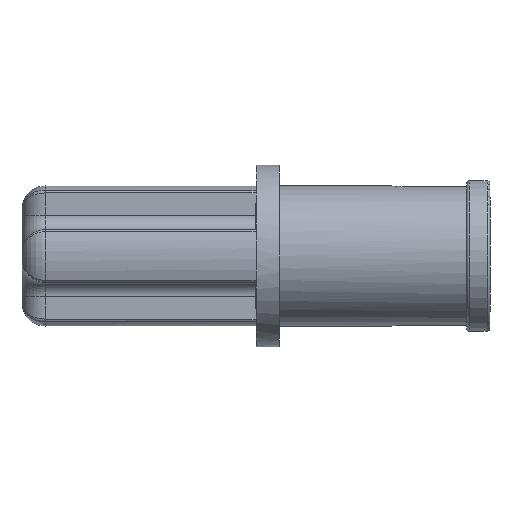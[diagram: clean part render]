
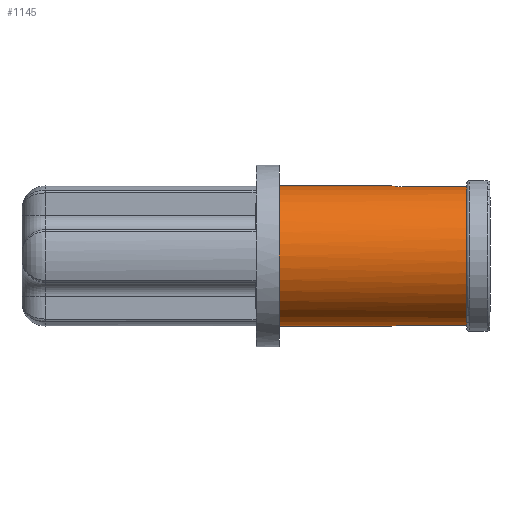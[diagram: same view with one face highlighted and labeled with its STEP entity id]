
A CAD part, front view. The second image highlights one B-rep face of the part: STEP entity #1145.
In plain terms, the highlighted cylindrical face has radius 2.4 mm (diameter 4.8 mm), a full revolution.
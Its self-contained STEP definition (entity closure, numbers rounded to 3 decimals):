
#87=B_SPLINE_CURVE_WITH_KNOTS('',3,(#1857,#1858,#1859,#1860,#1861),
 .UNSPECIFIED.,.F.,.F.,(4,1,4),(0.,0.001,0.001),
 .UNSPECIFIED.);
#88=B_SPLINE_CURVE_WITH_KNOTS('',3,(#1866,#1867,#1868,#1869,#1870),
 .UNSPECIFIED.,.F.,.F.,(4,1,4),(0.,0.001,0.001),
 .UNSPECIFIED.);
#125=CIRCLE('',#1244,2.4);
#127=CIRCLE('',#1247,2.4);
#128=CIRCLE('',#1249,2.4);
#218=ORIENTED_EDGE('',*,*,#570,.F.);
#219=ORIENTED_EDGE('',*,*,#571,.F.);
#220=ORIENTED_EDGE('',*,*,#572,.F.);
#221=ORIENTED_EDGE('',*,*,#573,.F.);
#222=ORIENTED_EDGE('',*,*,#569,.T.);
#223=ORIENTED_EDGE('',*,*,#574,.F.);
#224=ORIENTED_EDGE('',*,*,#575,.F.);
#225=ORIENTED_EDGE('',*,*,#576,.F.);
#226=ORIENTED_EDGE('',*,*,#565,.T.);
#565=EDGE_CURVE('',#739,#741,#125,.T.);
#569=EDGE_CURVE('',#743,#745,#127,.T.);
#570=EDGE_CURVE('',#746,#746,#128,.T.);
#571=EDGE_CURVE('',#747,#741,#816,.F.);
#572=EDGE_CURVE('',#748,#747,#87,.T.);
#573=EDGE_CURVE('',#743,#748,#817,.T.);
#574=EDGE_CURVE('',#749,#745,#818,.F.);
#575=EDGE_CURVE('',#750,#749,#88,.T.);
#576=EDGE_CURVE('',#739,#750,#819,.T.);
#739=VERTEX_POINT('',#1837);
#741=VERTEX_POINT('',#1841);
#743=VERTEX_POINT('',#1846);
#745=VERTEX_POINT('',#1850);
#746=VERTEX_POINT('',#1854);
#747=VERTEX_POINT('',#1856);
#748=VERTEX_POINT('',#1862);
#749=VERTEX_POINT('',#1865);
#750=VERTEX_POINT('',#1871);
#816=LINE('',#1855,#888);
#817=LINE('',#1863,#889);
#818=LINE('',#1864,#890);
#819=LINE('',#1872,#891);
#888=VECTOR('',#1409,1000.);
#889=VECTOR('',#1410,1000.);
#890=VECTOR('',#1411,1000.);
#891=VECTOR('',#1412,1000.);
#956=EDGE_LOOP('',(#218));
#957=EDGE_LOOP('',(#219,#220,#221,#222,#223,#224,#225,#226));
#1036=FACE_BOUND('',#956,.T.);
#1037=FACE_BOUND('',#957,.T.);
#1111=CYLINDRICAL_SURFACE('',#1248,2.4);
#1145=ADVANCED_FACE('',(#1036,#1037),#1111,.T.);
#1244=AXIS2_PLACEMENT_3D('',#1842,#1395,#1396);
#1247=AXIS2_PLACEMENT_3D('',#1851,#1403,#1404);
#1248=AXIS2_PLACEMENT_3D('',#1852,#1405,#1406);
#1249=AXIS2_PLACEMENT_3D('',#1853,#1407,#1408);
#1395=DIRECTION('',(-1.,0.,0.));
#1396=DIRECTION('',(0.,0.,1.));
#1403=DIRECTION('',(-1.,0.,0.));
#1404=DIRECTION('',(0.,0.,1.));
#1405=DIRECTION('',(-1.,0.,0.));
#1406=DIRECTION('',(0.,0.,1.));
#1407=DIRECTION('',(-1.,0.,0.));
#1408=DIRECTION('',(0.,0.,1.));
#1409=DIRECTION('',(-1.,0.,0.));
#1410=DIRECTION('',(-1.,0.,0.));
#1411=DIRECTION('',(-1.,0.,0.));
#1412=DIRECTION('',(-1.,0.,0.));
#1837=CARTESIAN_POINT('',(7.2,0.4,2.366));
#1841=CARTESIAN_POINT('',(7.2,0.4,-2.366));
#1842=CARTESIAN_POINT('',(7.2,0.,0.));
#1846=CARTESIAN_POINT('',(7.2,-0.4,-2.366));
#1850=CARTESIAN_POINT('',(7.2,-0.4,2.366));
#1851=CARTESIAN_POINT('',(7.2,0.,0.));
#1852=CARTESIAN_POINT('',(-60.,0.,0.));
#1853=CARTESIAN_POINT('',(0.8,0.,0.));
#1854=CARTESIAN_POINT('',(0.8,0.,2.4));
#1855=CARTESIAN_POINT('',(-60.,0.4,-2.366));
#1856=CARTESIAN_POINT('',(5.,0.4,-2.366));
#1857=CARTESIAN_POINT('',(5.,-0.4,-2.366));
#1858=CARTESIAN_POINT('',(4.788,-0.4,-2.366));
#1859=CARTESIAN_POINT('',(4.412,-0.001,-2.434));
#1860=CARTESIAN_POINT('',(4.788,0.4,-2.366));
#1861=CARTESIAN_POINT('',(5.,0.4,-2.366));
#1862=CARTESIAN_POINT('',(5.,-0.4,-2.366));
#1863=CARTESIAN_POINT('',(-60.,-0.4,-2.366));
#1864=CARTESIAN_POINT('',(-60.,-0.4,2.366));
#1865=CARTESIAN_POINT('',(5.,-0.4,2.366));
#1866=CARTESIAN_POINT('',(5.,0.4,2.366));
#1867=CARTESIAN_POINT('',(4.788,0.4,2.366));
#1868=CARTESIAN_POINT('',(4.412,0.001,2.434));
#1869=CARTESIAN_POINT('',(4.788,-0.4,2.366));
#1870=CARTESIAN_POINT('',(5.,-0.4,2.366));
#1871=CARTESIAN_POINT('',(5.,0.4,2.366));
#1872=CARTESIAN_POINT('',(-60.,0.4,2.366));
